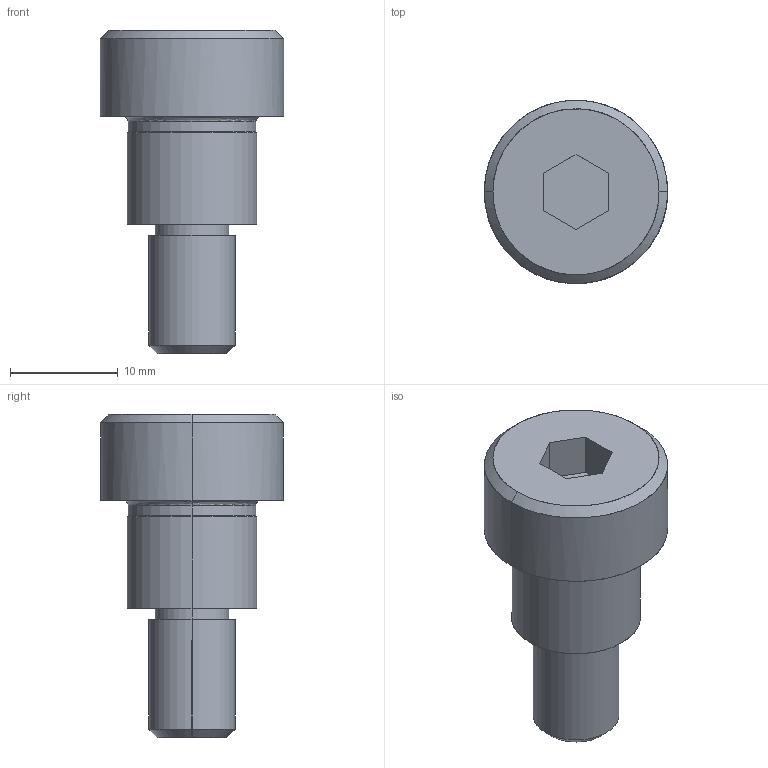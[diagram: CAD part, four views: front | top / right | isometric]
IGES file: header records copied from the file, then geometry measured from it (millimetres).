
Global section: file name: E:\UnigraphicsGraphicData\MISUMI_PRESS-PARTS\IGES\3d_msb12-10_00572_r00.igs; native system: NX V5.0; preprocessor: UGS NX IGES V5.0; author: MISUMI; date: 20110105.161513; units: millimetre
Bounding box: 17 x 17 x 30 mm (x, y, z)
Surface area: 1626.5 mm2 (no closed solid volume)
Topology: 0 solids, 0 shells, 30 faces, 172 edges, 172 vertices
Faces by surface type: bspline 30
